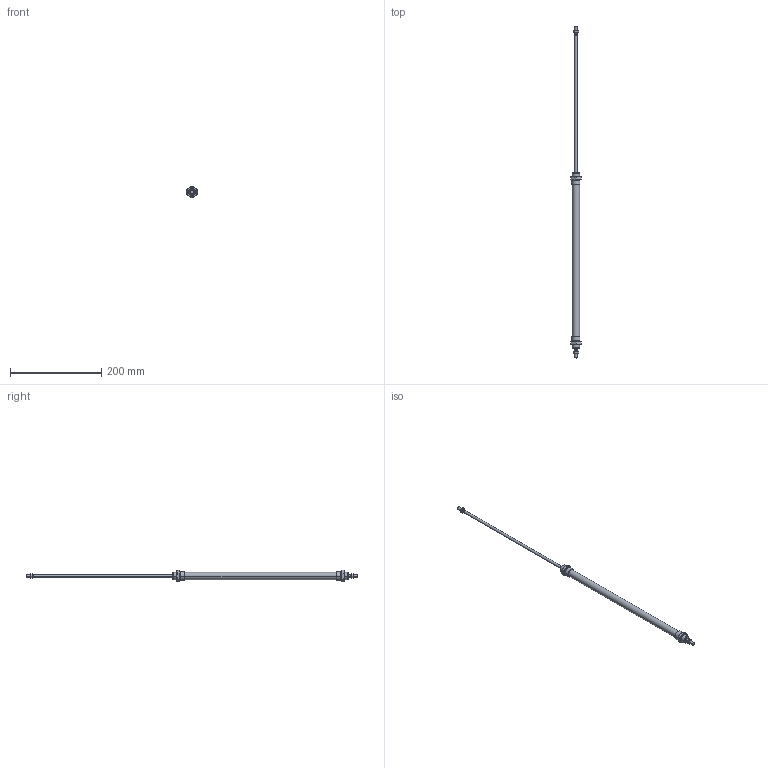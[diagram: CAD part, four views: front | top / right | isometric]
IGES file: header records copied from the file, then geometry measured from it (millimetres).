
Global section: file name: No Iges File Name specified; native system: AutoDesk Inventor R6.0; preprocessor: AutoDesk Inventor Iges Exporter R6.0; author: No Author specified; organization: No Organization specified; date: 20030403.072116; units: millimetre
Bounding box: 22 x 726 x 25.4 mm (x, y, z)
Volume: 91531.6 mm3; surface area: 44141.9 mm2
Topology: 6 solids, 6 shells, 180 faces, 388 edges, 228 vertices
Faces by surface type: cone 68, plane 56, bspline 30, cylinder 20, revolution 6
